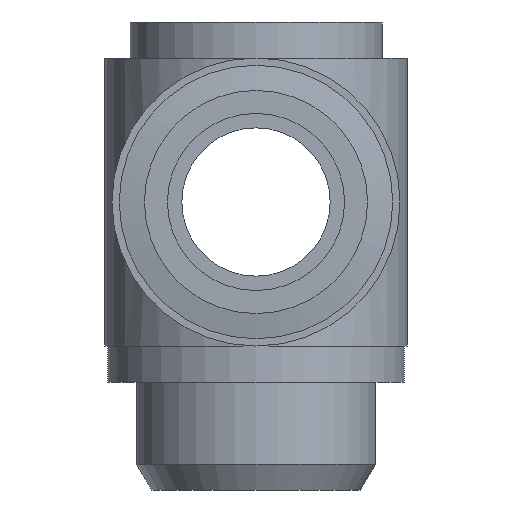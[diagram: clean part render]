
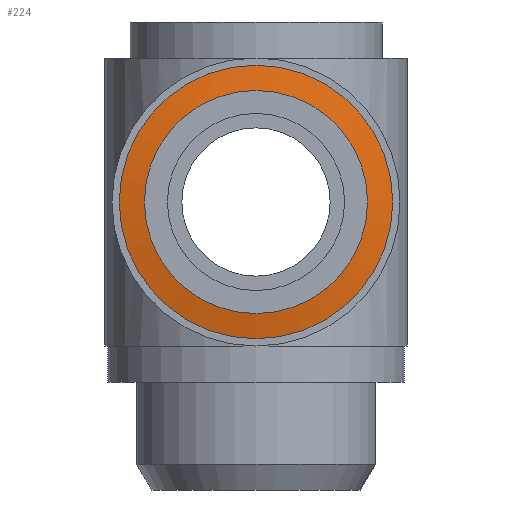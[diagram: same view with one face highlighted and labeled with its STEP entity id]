
A CAD part, front view. The second image highlights one B-rep face of the part: STEP entity #224.
In plain terms, the highlighted conical face has half-angle 80 degrees and reference radius 8.625 mm.
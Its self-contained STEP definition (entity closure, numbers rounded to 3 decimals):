
#190=CARTESIAN_POINT('',(9.5,-31.091,0.0));
#191=VERTEX_POINT('',#190);
#192=CARTESIAN_POINT('',(0.,-31.091,0.0));
#193=DIRECTION('',(0.0,-1.0,0.0));
#194=DIRECTION('',(1.0,0.0,0.0));
#195=AXIS2_PLACEMENT_3D('',#192,#193,#194);
#196=CIRCLE('',#195,9.5);
#197=EDGE_CURVE('',#191,#191,#196,.T.);
#205=CARTESIAN_POINT('',(0.,-31.246,0.0));
#206=DIRECTION('',(0.,1.0,0.0));
#207=DIRECTION('',(1.0,0.0,0.0));
#208=AXIS2_PLACEMENT_3D('',#205,#206,#207);
#209=CONICAL_SURFACE('',#208,8.625,80.);
#210=CARTESIAN_POINT('',(7.75,-31.4,0.0));
#211=VERTEX_POINT('',#210);
#212=CARTESIAN_POINT('',(0.,-31.4,0.0));
#213=DIRECTION('',(0.0,-1.0,0.0));
#214=DIRECTION('',(1.0,0.0,0.0));
#215=AXIS2_PLACEMENT_3D('',#212,#213,#214);
#216=CIRCLE('',#215,7.75);
#217=EDGE_CURVE('',#211,#211,#216,.T.);
#218=ORIENTED_EDGE('',*,*,#217,.F.);
#219=EDGE_LOOP('',(#218));
#220=FACE_OUTER_BOUND('',#219,.T.);
#221=ORIENTED_EDGE('',*,*,#197,.T.);
#222=EDGE_LOOP('',(#221));
#223=FACE_BOUND('',#222,.T.);
#224=ADVANCED_FACE('',(#220,#223),#209,.T.);
